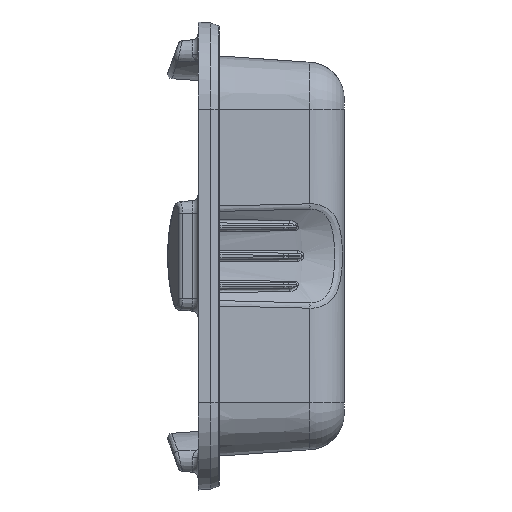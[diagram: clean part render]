
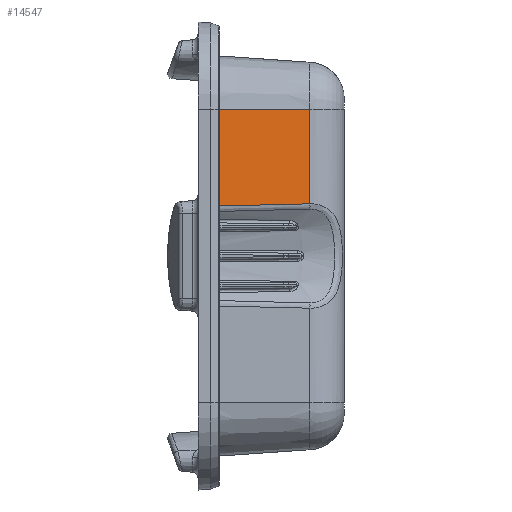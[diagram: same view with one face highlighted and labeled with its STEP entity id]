
A CAD part, left-side view. The second image highlights one B-rep face of the part: STEP entity #14547.
In plain terms, the highlighted planar face has unit normal (-0.998, -0.07, 0).
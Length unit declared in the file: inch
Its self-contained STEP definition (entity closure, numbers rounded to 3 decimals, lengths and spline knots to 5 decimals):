
#14547 = ADVANCED_FACE ( 'NONE', ( #18593 ), #18735, .T. ) ;
#14550 = EDGE_LOOP ( 'NONE', ( #14551, #14561, #16501, #16506 ) ) ;
#14551 = ORIENTED_EDGE ( 'NONE', *, *, #14672, .T. ) ;
#14561 = ORIENTED_EDGE ( 'NONE', *, *, #16496, .T. ) ;
#14583 = VERTEX_POINT ( 'NONE', #18885 ) ;
#14672 = EDGE_CURVE ( 'NONE', #14673, #14583, #19270, .T. ) ;
#14673 = VERTEX_POINT ( 'NONE', #19266 ) ;
#16496 = EDGE_CURVE ( 'NONE', #14583, #16499, #26536, .T. ) ;
#16499 = VERTEX_POINT ( 'NONE', #26535 ) ;
#16501 = ORIENTED_EDGE ( 'NONE', *, *, #16502, .T. ) ;
#16502 = EDGE_CURVE ( 'NONE', #16499, #16504, #26537, .T. ) ;
#16504 = VERTEX_POINT ( 'NONE', #26516 ) ;
#16506 = ORIENTED_EDGE ( 'NONE', *, *, #16508, .T. ) ;
#16508 = EDGE_CURVE ( 'NONE', #16504, #14673, #26515, .T. ) ;
#18593 = FACE_OUTER_BOUND ( 'NONE', #14550, .T. ) ;
#18730 = DIRECTION ( 'NONE',  ( 0.07, -0.998, 0. ) ) ;
#18732 = DIRECTION ( 'NONE',  ( -0.998, -0.07, 0. ) ) ;
#18733 = CARTESIAN_POINT ( 'NONE',  ( -2.614, 0., -0.994 ) ) ;
#18734 = AXIS2_PLACEMENT_3D ( 'NONE', #18733, #18732, #18730 ) ;
#18735 = PLANE ( 'NONE',  #18734 ) ;
#18885 = CARTESIAN_POINT ( 'NONE',  ( -2.60855, -0.07791, 0.33705 ) ) ;
#19266 = CARTESIAN_POINT ( 'NONE',  ( -2.60855, -0.07791, 0.994 ) ) ;
#19267 = DIRECTION ( 'NONE',  ( 0., 0., -1. ) ) ;
#19268 = VECTOR ( 'NONE', #19267, 39.37008 ) ;
#19269 = CARTESIAN_POINT ( 'NONE',  ( -2.60855, -0.07791, -0.994 ) ) ;
#19270 = LINE ( 'NONE', #19269, #19268 ) ;
#26515 = LINE ( 'NONE', #26627, #26626 ) ;
#26516 = CARTESIAN_POINT ( 'NONE',  ( -2.56103, -0.75744, 0.994 ) ) ;
#26517 = DIRECTION ( 'NONE',  ( 0., 0., 1. ) ) ;
#26518 = VECTOR ( 'NONE', #26517, 39.37008 ) ;
#26520 = CARTESIAN_POINT ( 'NONE',  ( -2.56103, -0.75744, 0.994 ) ) ;
#26523 = CARTESIAN_POINT ( 'NONE',  ( -2.56103, -0.75744, 0.3531 ) ) ;
#26525 = CARTESIAN_POINT ( 'NONE',  ( -2.57687, -0.53093, 0.34787 ) ) ;
#26527 = CARTESIAN_POINT ( 'NONE',  ( -2.59271, -0.30441, 0.34253 ) ) ;
#26529 = CARTESIAN_POINT ( 'NONE',  ( -2.60855, -0.07791, 0.33705 ) ) ;
#26535 = CARTESIAN_POINT ( 'NONE',  ( -2.56103, -0.75744, 0.3531 ) ) ;
#26536 = B_SPLINE_CURVE_WITH_KNOTS ( 'NONE', 3,
 ( #26529, #26527, #26525, #26523 ),
 .UNSPECIFIED., .F., .F.,
 ( 4, 4 ),
 ( 0., 0.01731 ),
 .UNSPECIFIED. ) ;
#26537 = LINE ( 'NONE', #26520, #26518 ) ;
#26624 = DIRECTION ( 'NONE',  ( -0.07, 0.998, 0. ) ) ;
#26626 = VECTOR ( 'NONE', #26624, 39.37008 ) ;
#26627 = CARTESIAN_POINT ( 'NONE',  ( -2.614, 0., 0.994 ) ) ;
